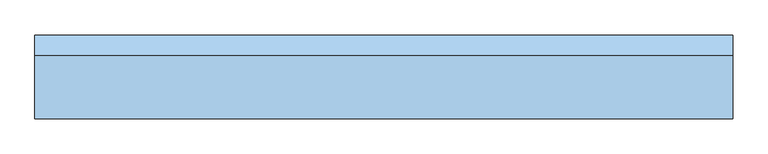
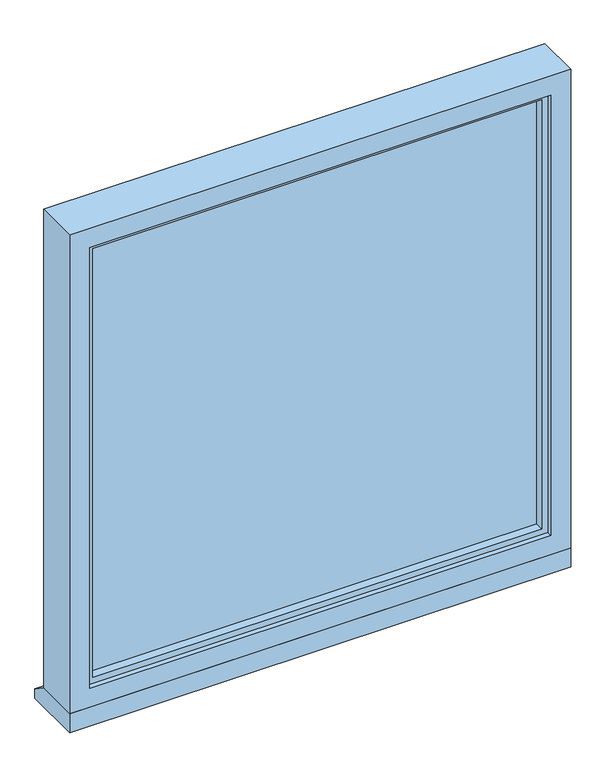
"""IFC4 building model written with IfcOpenShell, lengths in millimetres: window geometry, BIMHealth-Window_Vistamatic-LOD2A-v1 : BIMHealth-Window_Vistamatic-LOD2A-v1."""

from ifc_helpers import new_model, si_unit, frame, origin, place, context, project, spatial, polyline, outline, extrude, source, transform, mapped, element, save


def window_e51dcf83(model_context):
    return source(origin(), model_context, "Body", "SweptSolid", [
        extrude(outline(polyline([(2060.0, -460.0), (1130.0, -460.0), (1130.0, 460.0), (2060.0, 460.0), (2060.0, -460.0)]), holes=[polyline([(2048.0, -448.0), (2048.0, 448.0), (1142.0, 448.0), (1142.0, -448.0), (2048.0, -448.0)])]), frame((0.0, -35.0, 0.0), z_axis=(0.0, 1.0, 0.0), x_axis=(0.0, 0.0, 1.0)), (0.0, 0.0, 1.0), 18.0),
        extrude(outline(polyline([(2060.0, -460.0), (1130.0, -460.0), (1130.0, 460.0), (2060.0, 460.0), (2060.0, -460.0)]), holes=[polyline([(2048.0, -448.0), (2048.0, 448.0), (1142.0, 448.0), (1142.0, -448.0), (2048.0, -448.0)])]), frame((0.0, 17.0, 0.0), z_axis=(0.0, 1.0, 0.0), x_axis=(0.0, 0.0, 1.0)), (0.0, 0.0, 1.0), 18.0),
        extrude(outline(polyline([(0.0, -23.1126984), (0.0, 0.0), (920.0, 0.0), (920.0, -23.1126984), (0.0, -23.1126984)])), frame((-460.0, 7.4644661, 1199.5355339), z_axis=(0.0, 0.7071067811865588, 0.7071067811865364), x_axis=(1.0, 0.0, 0.0)), (0.0, 0.0, 1.0), 2.0),
        extrude(outline(polyline([(460.0, -17.0), (-460.0, -17.0), (-460.0, -11.0), (460.0, -11.0), (460.0, -17.0)])), frame((0.0, 0.0, 1130.0), z_axis=(0.0, 0.0, 1.0), x_axis=(1.0, 0.0, 0.0)), (0.0, 0.0, 1.0), 930.0),
        extrude(outline(polyline([(-460.0, 17.0), (460.0, 17.0), (460.0, 11.0), (-460.0, 11.0), (-460.0, 17.0)])), frame((0.0, 0.0, 1130.0), z_axis=(0.0, 0.0, 1.0), x_axis=(1.0, 0.0, 0.0)), (0.0, 0.0, 1.0), 930.0),
        extrude(outline(polyline([(2100.0, -500.0), (1090.0, -500.0), (1090.0, 500.0), (2100.0, 500.0), (2100.0, -500.0)]), holes=[polyline([(2060.0, 460.0), (1130.0, 460.0), (1130.0, -460.0), (2060.0, -460.0), (2060.0, 460.0)])]), frame((0.0, -45.0, 0.0), z_axis=(0.0, 1.0, 0.0), x_axis=(0.0, 0.0, 1.0)), (0.0, 0.0, 1.0), 90.0),
        extrude(outline(polyline([(0.0, -23.1126984), (0.0, 0.0), (920.0, 0.0), (920.0, -23.1126984), (0.0, -23.1126984)])), frame((-460.0, 7.4644661, 2035.5355339), z_axis=(0.0, 0.7071067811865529, 0.7071067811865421), x_axis=(1.0, 0.0, 0.0)), (0.0, 0.0, 1.0), 2.0),
        extrude(outline(polyline([(0.0, -23.1126984), (0.0, 0.0), (920.0, 0.0), (920.0, -23.1126984), (0.0, -23.1126984)])), frame((-460.0, 7.4644661, 2013.5355339), z_axis=(0.0, 0.7071067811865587, 0.7071067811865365), x_axis=(1.0, 0.0, 0.0)), (0.0, 0.0, 1.0), 2.0),
        extrude(outline(polyline([(0.0, -23.1126984), (0.0, 0.0), (920.0, 0.0), (920.0, -23.1126984), (0.0, -23.1126984)])), frame((-460.0, 7.4644661, 1991.5355339), z_axis=(0.0, 0.7071067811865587, 0.7071067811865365), x_axis=(1.0, 0.0, 0.0)), (0.0, 0.0, 1.0), 2.0),
        extrude(outline(polyline([(0.0, -23.1126984), (0.0, 0.0), (920.0, 0.0), (920.0, -23.1126984), (0.0, -23.1126984)])), frame((-460.0, 7.4644661, 1969.5355339), z_axis=(0.0, 0.7071067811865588, 0.7071067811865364), x_axis=(1.0, 0.0, 0.0)), (0.0, 0.0, 1.0), 2.0),
        extrude(outline(polyline([(0.0, -23.1126984), (0.0, 0.0), (920.0, 0.0), (920.0, -23.1126984), (0.0, -23.1126984)])), frame((-460.0, 7.4644661, 1947.5355339), z_axis=(0.0, 0.7071067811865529, 0.7071067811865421), x_axis=(1.0, 0.0, 0.0)), (0.0, 0.0, 1.0), 2.0),
        extrude(outline(polyline([(0.0, -23.1126984), (0.0, 0.0), (920.0, 0.0), (920.0, -23.1126984), (0.0, -23.1126984)])), frame((-460.0, 7.4644661, 1925.5355339), z_axis=(0.0, 0.7071067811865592, 0.7071067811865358), x_axis=(1.0, 0.0, 0.0)), (0.0, 0.0, 1.0), 2.0),
        extrude(outline(polyline([(0.0, -23.1126984), (0.0, 0.0), (920.0, 0.0), (920.0, -23.1126984), (0.0, -23.1126984)])), frame((-460.0, 7.4644661, 1903.5355339), z_axis=(0.0, 0.7071067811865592, 0.7071067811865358), x_axis=(1.0, 0.0, 0.0)), (0.0, 0.0, 1.0), 2.0),
        extrude(outline(polyline([(0.0, -23.1126984), (0.0, 0.0), (920.0, 0.0), (920.0, -23.1126984), (0.0, -23.1126984)])), frame((-460.0, 7.4644661, 1881.5355339), z_axis=(0.0, 0.7071067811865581, 0.707106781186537), x_axis=(1.0, 0.0, 0.0)), (0.0, 0.0, 1.0), 2.0),
        extrude(outline(polyline([(0.0, -23.1126984), (0.0, 0.0), (920.0, 0.0), (920.0, -23.1126984), (0.0, -23.1126984)])), frame((-460.0, 7.4644661, 1859.5355339), z_axis=(0.0, 0.7071067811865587, 0.7071067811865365), x_axis=(1.0, 0.0, 0.0)), (0.0, 0.0, 1.0), 2.0),
        extrude(outline(polyline([(0.0, -23.1126984), (0.0, 0.0), (920.0, 0.0), (920.0, -23.1126984), (0.0, -23.1126984)])), frame((-460.0, 7.4644661, 1837.5355339), z_axis=(0.0, 0.7071067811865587, 0.7071067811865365), x_axis=(1.0, 0.0, 0.0)), (0.0, 0.0, 1.0), 2.0),
        extrude(outline(polyline([(0.0, -23.1126984), (0.0, 0.0), (920.0, 0.0), (920.0, -23.1126984), (0.0, -23.1126984)])), frame((-460.0, 7.4644661, 1815.5355339), z_axis=(0.0, 0.7071067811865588, 0.7071067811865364), x_axis=(1.0, 0.0, 0.0)), (0.0, 0.0, 1.0), 2.0),
        extrude(outline(polyline([(0.0, -23.1126984), (0.0, 0.0), (920.0, 0.0), (920.0, -23.1126984), (0.0, -23.1126984)])), frame((-460.0, 7.4644661, 1793.5355339), z_axis=(0.0, 0.7071067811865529, 0.7071067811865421), x_axis=(1.0, 0.0, 0.0)), (0.0, 0.0, 1.0), 2.0),
        extrude(outline(polyline([(0.0, -23.1126984), (0.0, 0.0), (920.0, 0.0), (920.0, -23.1126984), (0.0, -23.1126984)])), frame((-460.0, 7.4644661, 1771.5355339), z_axis=(0.0, 0.7071067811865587, 0.7071067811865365), x_axis=(1.0, 0.0, 0.0)), (0.0, 0.0, 1.0), 2.0),
        extrude(outline(polyline([(0.0, -23.1126984), (0.0, 0.0), (920.0, 0.0), (920.0, -23.1126984), (0.0, -23.1126984)])), frame((-460.0, 7.4644661, 1749.5355339), z_axis=(0.0, 0.7071067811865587, 0.7071067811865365), x_axis=(1.0, 0.0, 0.0)), (0.0, 0.0, 1.0), 2.0),
        extrude(outline(polyline([(0.0, -23.1126984), (0.0, 0.0), (920.0, 0.0), (920.0, -23.1126984), (0.0, -23.1126984)])), frame((-460.0, 7.4644661, 1727.5355339), z_axis=(0.0, 0.7071067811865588, 0.7071067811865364), x_axis=(1.0, 0.0, 0.0)), (0.0, 0.0, 1.0), 2.0),
        extrude(outline(polyline([(0.0, -23.1126984), (0.0, 0.0), (920.0, 0.0), (920.0, -23.1126984), (0.0, -23.1126984)])), frame((-460.0, 7.4644661, 1705.5355339), z_axis=(0.0, 0.7071067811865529, 0.7071067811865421), x_axis=(1.0, 0.0, 0.0)), (0.0, 0.0, 1.0), 2.0),
        extrude(outline(polyline([(0.0, -23.1126984), (0.0, 0.0), (920.0, 0.0), (920.0, -23.1126984), (0.0, -23.1126984)])), frame((-460.0, 7.4644661, 1683.5355339), z_axis=(0.0, 0.7071067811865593, 0.7071067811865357), x_axis=(1.0, 0.0, 0.0)), (0.0, 0.0, 1.0), 2.0),
        extrude(outline(polyline([(0.0, -23.1126984), (0.0, 0.0), (920.0, 0.0), (920.0, -23.1126984), (0.0, -23.1126984)])), frame((-460.0, 7.4644661, 1661.5355339), z_axis=(0.0, 0.7071067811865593, 0.7071067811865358), x_axis=(1.0, 0.0, 0.0)), (0.0, 0.0, 1.0), 2.0),
        extrude(outline(polyline([(0.0, -23.1126984), (0.0, 0.0), (920.0, 0.0), (920.0, -23.1126984), (0.0, -23.1126984)])), frame((-460.0, 7.4644661, 1639.5355339), z_axis=(0.0, 0.7071067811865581, 0.707106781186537), x_axis=(1.0, 0.0, 0.0)), (0.0, 0.0, 1.0), 2.0),
        extrude(outline(polyline([(0.0, -23.1126984), (0.0, 0.0), (920.0, 0.0), (920.0, -23.1126984), (0.0, -23.1126984)])), frame((-460.0, 7.4644661, 1617.5355339), z_axis=(0.0, 0.7071067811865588, 0.7071067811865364), x_axis=(1.0, 0.0, 0.0)), (0.0, 0.0, 1.0), 2.0),
        extrude(outline(polyline([(0.0, -23.1126984), (0.0, 0.0), (920.0, 0.0), (920.0, -23.1126984), (0.0, -23.1126984)])), frame((-460.0, 7.4644661, 1595.5355339), z_axis=(0.0, 0.7071067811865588, 0.7071067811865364), x_axis=(1.0, 0.0, 0.0)), (0.0, 0.0, 1.0), 2.0),
        extrude(outline(polyline([(0.0, -23.1126984), (0.0, 0.0), (920.0, 0.0), (920.0, -23.1126984), (0.0, -23.1126984)])), frame((-460.0, 7.4644661, 1573.5355339), z_axis=(0.0, 0.7071067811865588, 0.7071067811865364), x_axis=(1.0, 0.0, 0.0)), (0.0, 0.0, 1.0), 2.0),
        extrude(outline(polyline([(0.0, -23.1126984), (0.0, 0.0), (920.0, 0.0), (920.0, -23.1126984), (0.0, -23.1126984)])), frame((-460.0, 7.4644661, 1551.5355339), z_axis=(0.0, 0.7071067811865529, 0.7071067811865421), x_axis=(1.0, 0.0, 0.0)), (0.0, 0.0, 1.0), 2.0),
        extrude(outline(polyline([(0.0, -23.1126984), (0.0, 0.0), (920.0, 0.0), (920.0, -23.1126984), (0.0, -23.1126984)])), frame((-460.0, 7.4644661, 1529.5355339), z_axis=(0.0, 0.7071067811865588, 0.7071067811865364), x_axis=(1.0, 0.0, 0.0)), (0.0, 0.0, 1.0), 2.0),
        extrude(outline(polyline([(0.0, -23.1126984), (0.0, 0.0), (920.0, 0.0), (920.0, -23.1126984), (0.0, -23.1126984)])), frame((-460.0, 7.4644661, 1507.5355339), z_axis=(0.0, 0.7071067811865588, 0.7071067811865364), x_axis=(1.0, 0.0, 0.0)), (0.0, 0.0, 1.0), 2.0),
        extrude(outline(polyline([(0.0, -23.1126984), (0.0, 0.0), (920.0, 0.0), (920.0, -23.1126984), (0.0, -23.1126984)])), frame((-460.0, 7.4644661, 1485.5355339), z_axis=(0.0, 0.7071067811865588, 0.7071067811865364), x_axis=(1.0, 0.0, 0.0)), (0.0, 0.0, 1.0), 2.0),
        extrude(outline(polyline([(0.0, -23.1126984), (0.0, 0.0), (920.0, 0.0), (920.0, -23.1126984), (0.0, -23.1126984)])), frame((-460.0, 7.4644661, 1463.5355339), z_axis=(0.0, 0.7071067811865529, 0.7071067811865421), x_axis=(1.0, 0.0, 0.0)), (0.0, 0.0, 1.0), 2.0),
        extrude(outline(polyline([(0.0, -23.1126984), (0.0, 0.0), (920.0, 0.0), (920.0, -23.1126984), (0.0, -23.1126984)])), frame((-460.0, 7.4644661, 1441.5355339), z_axis=(0.0, 0.7071067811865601, 0.7071067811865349), x_axis=(1.0, 0.0, 0.0)), (0.0, 0.0, 1.0), 2.0),
        extrude(outline(polyline([(0.0, -23.1126984), (0.0, 0.0), (920.0, 0.0), (920.0, -23.1126984), (0.0, -23.1126984)])), frame((-460.0, 7.4644661, 1419.5355339), z_axis=(0.0, 0.7071067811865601, 0.7071067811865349), x_axis=(1.0, 0.0, 0.0)), (0.0, 0.0, 1.0), 2.0),
        extrude(outline(polyline([(0.0, -23.1126984), (0.0, 0.0), (920.0, 0.0), (920.0, -23.1126984), (0.0, -23.1126984)])), frame((-460.0, 7.4644661, 1397.5355339), z_axis=(0.0, 0.7071067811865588, 0.7071067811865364), x_axis=(1.0, 0.0, 0.0)), (0.0, 0.0, 1.0), 2.0),
        extrude(outline(polyline([(0.0, -23.1126984), (0.0, 0.0), (920.0, 0.0), (920.0, -23.1126984), (0.0, -23.1126984)])), frame((-460.0, 7.4644661, 1375.5355339), z_axis=(0.0, 0.7071067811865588, 0.7071067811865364), x_axis=(1.0, 0.0, 0.0)), (0.0, 0.0, 1.0), 2.0),
        extrude(outline(polyline([(0.0, -23.1126984), (0.0, 0.0), (920.0, 0.0), (920.0, -23.1126984), (0.0, -23.1126984)])), frame((-460.0, 7.4644661, 1353.5355339), z_axis=(0.0, 0.7071067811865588, 0.7071067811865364), x_axis=(1.0, 0.0, 0.0)), (0.0, 0.0, 1.0), 2.0),
        extrude(outline(polyline([(0.0, -23.1126984), (0.0, 0.0), (920.0, 0.0), (920.0, -23.1126984), (0.0, -23.1126984)])), frame((-460.0, 7.4644661, 1331.5355339), z_axis=(0.0, 0.7071067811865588, 0.7071067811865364), x_axis=(1.0, 0.0, 0.0)), (0.0, 0.0, 1.0), 2.0),
        extrude(outline(polyline([(0.0, -23.1126984), (0.0, 0.0), (920.0, 0.0), (920.0, -23.1126984), (0.0, -23.1126984)])), frame((-460.0, 7.4644661, 1309.5355339), z_axis=(0.0, 0.7071067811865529, 0.7071067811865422), x_axis=(1.0, 0.0, 0.0)), (0.0, 0.0, 1.0), 2.0),
        extrude(outline(polyline([(0.0, -23.1126984), (0.0, 0.0), (920.0, 0.0), (920.0, -23.1126984), (0.0, -23.1126984)])), frame((-460.0, 7.4644661, 1287.5355339), z_axis=(0.0, 0.7071067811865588, 0.7071067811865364), x_axis=(1.0, 0.0, 0.0)), (0.0, 0.0, 1.0), 2.0),
        extrude(outline(polyline([(0.0, -23.1126984), (0.0, 0.0), (920.0, 0.0), (920.0, -23.1126984), (0.0, -23.1126984)])), frame((-460.0, 7.4644661, 1265.5355339), z_axis=(0.0, 0.7071067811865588, 0.7071067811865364), x_axis=(1.0, 0.0, 0.0)), (0.0, 0.0, 1.0), 2.0),
        extrude(outline(polyline([(0.0, -23.1126984), (0.0, 0.0), (920.0, 0.0), (920.0, -23.1126984), (0.0, -23.1126984)])), frame((-460.0, 7.4644661, 1243.5355339), z_axis=(0.0, 0.7071067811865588, 0.7071067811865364), x_axis=(1.0, 0.0, 0.0)), (0.0, 0.0, 1.0), 2.0),
        extrude(outline(polyline([(0.0, -23.1126984), (0.0, 0.0), (920.0, 0.0), (920.0, -23.1126984), (0.0, -23.1126984)])), frame((-460.0, 7.4644661, 1221.5355339), z_axis=(0.0, 0.7071067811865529, 0.7071067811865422), x_axis=(1.0, 0.0, 0.0)), (0.0, 0.0, 1.0), 2.0),
        extrude(outline(polyline([(0.0, -23.1126984), (0.0, 0.0), (920.0, 0.0), (920.0, -23.1126984), (0.0, -23.1126984)])), frame((-460.0, 7.4644661, 1177.5355339), z_axis=(0.0, 0.7071067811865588, 0.7071067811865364), x_axis=(1.0, 0.0, 0.0)), (0.0, 0.0, 1.0), 2.0),
        extrude(outline(polyline([(0.0, -23.1126984), (0.0, 0.0), (920.0, 0.0), (920.0, -23.1126984), (0.0, -23.1126984)])), frame((-460.0, 7.4644661, 1155.5355339), z_axis=(0.0, 0.7071067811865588, 0.7071067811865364), x_axis=(1.0, 0.0, 0.0)), (0.0, 0.0, 1.0), 2.0),
        extrude(outline(polyline([(0.0, -23.1126984), (0.0, 0.0), (920.0, 0.0), (920.0, -23.1126984), (0.0, -23.1126984)])), frame((-460.0, 7.4644661, 1133.5355339), z_axis=(0.0, 0.7071067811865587, 0.7071067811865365), x_axis=(1.0, 0.0, 0.0)), (0.0, 0.0, 1.0), 2.0),
        extrude(outline(polyline([(75.0, 1050.0), (-45.0, 1050.0), (-45.0, 1090.0), (45.0, 1090.0), (75.0, 1070.0), (75.0, 1050.0)])), frame((-500.0, 0.0, 0.0), z_axis=(1.0, 0.0, 0.0), x_axis=(0.0, 1.0, 0.0)), (0.0, 0.0, 1.0), 1000.0),
    ])


if __name__ == "__main__":
    model = new_model("IFC4")
    model_context = context("Model", 3, world=origin())
    ifc_project = project(units=[si_unit("LENGTHUNIT", "METRE", prefix="MILLI")], contexts=[model_context])
    site = spatial("IfcSite", under=ifc_project)
    building = spatial("IfcBuilding", under=site)
    placement = place(None, origin())
    window_shape = window_e51dcf83(model_context)
    element("IfcWindow", 1, ObjectType="BIMHealth-Window_Vistamatic-LOD2A-v1 : BIMHealth-Window_Vistamatic-LOD2A-v1", at=placement, inside=building, context=model_context, shape_type="MappedRepresentation", body=[
        mapped(window_shape, transform((0.0, 0.0, 0.0), x_axis=(1.0, 0.0, 0.0), y_axis=(0.0, 1.0, 0.0), z_axis=(0.0, 0.0, 1.0))),
    ])
    save(model, "model.ifc")
